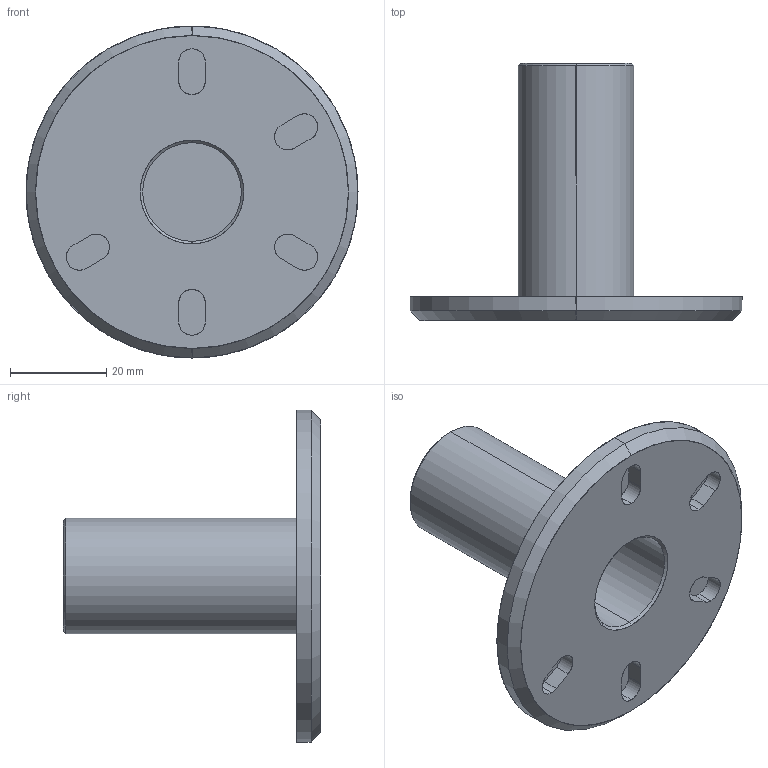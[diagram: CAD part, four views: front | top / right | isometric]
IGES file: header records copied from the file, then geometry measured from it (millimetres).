
Start section: SolidWorks IGES file using analytic representation for surfaces
Global section: file name: C:\Users\Centika\Documents\Rakumba Internship\Solidworks Lightweight\Cilon_Surface_Mount_Adjustable.IGS; native system: SolidWorks 2017; preprocessor: SolidWorks 2017; author: Centika; date: 181204.163334; units: millimetre
Bounding box: 69 x 53.5 x 69 mm (x, y, z)
Surface area: 14937.6 mm2 (no closed solid volume)
Topology: 0 solids, 0 shells, 46 faces, 756 edges, 756 vertices
Faces by surface type: revolution 27, bspline 19
